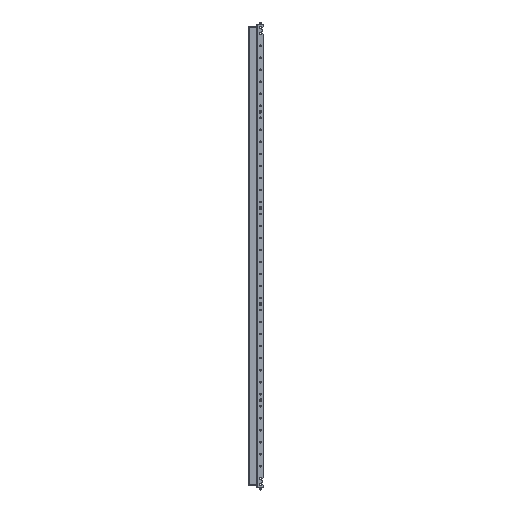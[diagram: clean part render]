
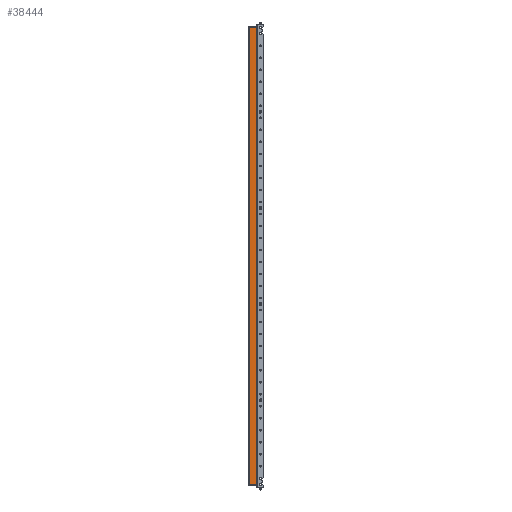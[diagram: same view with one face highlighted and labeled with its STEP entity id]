
A CAD part, front view. The second image highlights one B-rep face of the part: STEP entity #38444.
In plain terms, the highlighted planar face has unit normal (0, -1, 0).
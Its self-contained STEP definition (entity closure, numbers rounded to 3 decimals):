
#761 = DIRECTION ( 'NONE',  ( 0., 0., -1. ) ) ;
#957 = EDGE_CURVE ( 'NONE', #21115, #54701, #41684, .T. ) ;
#1209 = LINE ( 'NONE', #4915, #47771 ) ;
#1226 = DIRECTION ( 'NONE',  ( -1., 0., 0. ) ) ;
#1297 = VERTEX_POINT ( 'NONE', #9064 ) ;
#1317 = VECTOR ( 'NONE', #14260, 1000. ) ;
#2338 = CARTESIAN_POINT ( 'NONE',  ( -26.493, -9.122, 976. ) ) ;
#3583 = ORIENTED_EDGE ( 'NONE', *, *, #26317, .F. ) ;
#4236 = DIRECTION ( 'NONE',  ( 1., 0., 0. ) ) ;
#4507 = CARTESIAN_POINT ( 'NONE',  ( 0.607, -9.122, 2878. ) ) ;
#4725 = CARTESIAN_POINT ( 'NONE',  ( -28.193, -9.122, 976. ) ) ;
#4915 = CARTESIAN_POINT ( 'NONE',  ( -31.293, -9.122, 976. ) ) ;
#5009 = ORIENTED_EDGE ( 'NONE', *, *, #17260, .F. ) ;
#5010 = CARTESIAN_POINT ( 'NONE',  ( -31.293, -9.122, 2878. ) ) ;
#7632 = CARTESIAN_POINT ( 'NONE',  ( -29.693, -9.122, 2878. ) ) ;
#8868 = EDGE_CURVE ( 'NONE', #48465, #15091, #28551, .T. ) ;
#9064 = CARTESIAN_POINT ( 'NONE',  ( -29.693, -9.122, 976. ) ) ;
#10398 = CARTESIAN_POINT ( 'NONE',  ( -26.493, -9.122, 2878. ) ) ;
#12223 = VERTEX_POINT ( 'NONE', #22003 ) ;
#13144 = CARTESIAN_POINT ( 'NONE',  ( -28.193, -9.122, 2890.5 ) ) ;
#13338 = AXIS2_PLACEMENT_3D ( 'NONE', #13144, #33052, #56377 ) ;
#14260 = DIRECTION ( 'NONE',  ( 1., 0., 0. ) ) ;
#14382 = CARTESIAN_POINT ( 'NONE',  ( -28.193, -9.122, 976. ) ) ;
#15091 = VERTEX_POINT ( 'NONE', #7632 ) ;
#17260 = EDGE_CURVE ( 'NONE', #21586, #1297, #1209, .T. ) ;
#18566 = LINE ( 'NONE', #4725, #37148 ) ;
#21115 = VERTEX_POINT ( 'NONE', #39159 ) ;
#21586 = VERTEX_POINT ( 'NONE', #2338 ) ;
#22003 = CARTESIAN_POINT ( 'NONE',  ( 2.307, -9.122, 2878. ) ) ;
#23012 = EDGE_CURVE ( 'NONE', #15091, #1297, #37912, .T. ) ;
#24339 = VECTOR ( 'NONE', #28784, 1000. ) ;
#26317 = EDGE_CURVE ( 'NONE', #12223, #54701, #52121, .T. ) ;
#27272 = PLANE ( 'NONE',  #13338 ) ;
#27461 = ORIENTED_EDGE ( 'NONE', *, *, #23012, .T. ) ;
#28136 = VECTOR ( 'NONE', #761, 1000. ) ;
#28551 = LINE ( 'NONE', #38380, #48878 ) ;
#28784 = DIRECTION ( 'NONE',  ( 0., 0., -1. ) ) ;
#28940 = DIRECTION ( 'NONE',  ( 1., 0., 0. ) ) ;
#29383 = ORIENTED_EDGE ( 'NONE', *, *, #31546, .T. ) ;
#31546 = EDGE_CURVE ( 'NONE', #48885, #48465, #51196, .T. ) ;
#33052 = DIRECTION ( 'NONE',  ( 0., 1., 0. ) ) ;
#34015 = CARTESIAN_POINT ( 'NONE',  ( 2.307, -9.122, 2890.5 ) ) ;
#37148 = VECTOR ( 'NONE', #28940, 1000. ) ;
#37912 = LINE ( 'NONE', #42815, #28136 ) ;
#38380 = CARTESIAN_POINT ( 'NONE',  ( -28.193, -9.122, 2878. ) ) ;
#38444 = ADVANCED_FACE ( 'NONE', ( #46267 ), #27272, .F. ) ;
#39159 = CARTESIAN_POINT ( 'NONE',  ( 0.607, -9.122, 976. ) ) ;
#41684 = LINE ( 'NONE', #14382, #51149 ) ;
#42463 = LINE ( 'NONE', #5010, #1317 ) ;
#42815 = CARTESIAN_POINT ( 'NONE',  ( -29.693, -9.122, 2890.5 ) ) ;
#43272 = DIRECTION ( 'NONE',  ( -1., 0., 0. ) ) ;
#43983 = EDGE_CURVE ( 'NONE', #48885, #12223, #42463, .T. ) ;
#46235 = EDGE_LOOP ( 'NONE', ( #27461, #5009, #50324, #59399, #3583, #55978, #29383, #48176 ) ) ;
#46267 = FACE_OUTER_BOUND ( 'NONE', #46235, .T. ) ;
#47771 = VECTOR ( 'NONE', #43272, 1000. ) ;
#48176 = ORIENTED_EDGE ( 'NONE', *, *, #8868, .T. ) ;
#48465 = VERTEX_POINT ( 'NONE', #10398 ) ;
#48878 = VECTOR ( 'NONE', #1226, 1000. ) ;
#48885 = VERTEX_POINT ( 'NONE', #4507 ) ;
#50324 = ORIENTED_EDGE ( 'NONE', *, *, #55567, .T. ) ;
#50603 = DIRECTION ( 'NONE',  ( -1., 0., 0. ) ) ;
#51149 = VECTOR ( 'NONE', #4236, 1000. ) ;
#51196 = LINE ( 'NONE', #60407, #55154 ) ;
#52115 = CARTESIAN_POINT ( 'NONE',  ( 2.307, -9.122, 976. ) ) ;
#52121 = LINE ( 'NONE', #34015, #24339 ) ;
#54701 = VERTEX_POINT ( 'NONE', #52115 ) ;
#55154 = VECTOR ( 'NONE', #50603, 1000. ) ;
#55567 = EDGE_CURVE ( 'NONE', #21586, #21115, #18566, .T. ) ;
#55978 = ORIENTED_EDGE ( 'NONE', *, *, #43983, .F. ) ;
#56377 = DIRECTION ( 'NONE',  ( 0., 0., 1. ) ) ;
#59399 = ORIENTED_EDGE ( 'NONE', *, *, #957, .T. ) ;
#60407 = CARTESIAN_POINT ( 'NONE',  ( -28.193, -9.122, 2878. ) ) ;
